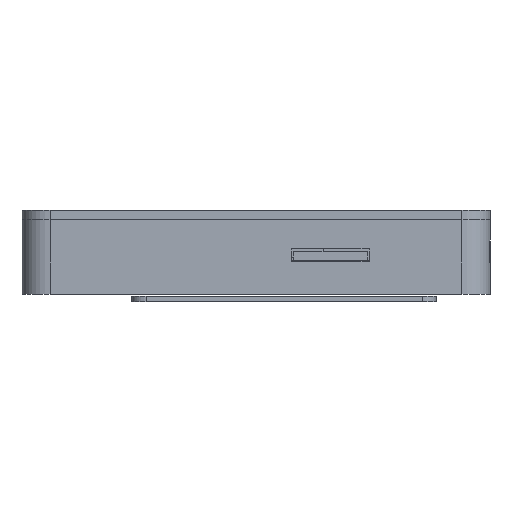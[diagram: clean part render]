
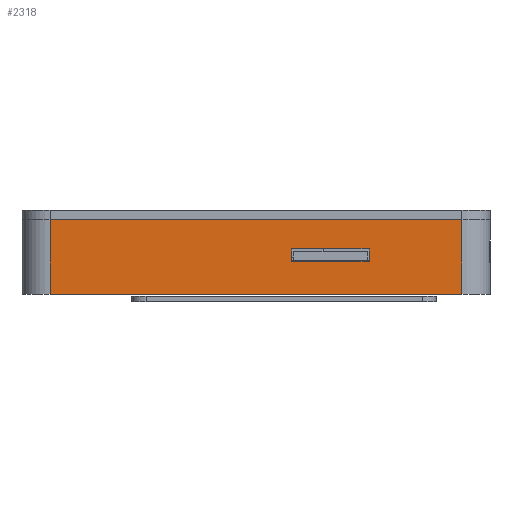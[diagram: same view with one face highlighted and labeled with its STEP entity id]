
A CAD part, left-side view. The second image highlights one B-rep face of the part: STEP entity #2318.
In plain terms, the highlighted planar face has unit normal (-1, 0, 0).
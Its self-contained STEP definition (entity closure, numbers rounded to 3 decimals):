
#1672 = VERTEX_POINT('',#1673);
#1673 = CARTESIAN_POINT('',(-23.,-44.,16.));
#1683 = PLANE('',#1684);
#1684 = AXIS2_PLACEMENT_3D('',#1685,#1686,#1687);
#1685 = CARTESIAN_POINT('',(-17.,-50.,16.));
#1686 = DIRECTION('',(0.,0.,1.));
#1687 = DIRECTION('',(1.,0.,-0.));
#1695 = CYLINDRICAL_SURFACE('',#1696,6.);
#1696 = AXIS2_PLACEMENT_3D('',#1697,#1698,#1699);
#1697 = CARTESIAN_POINT('',(-17.,-44.,0.));
#1698 = DIRECTION('',(0.,0.,1.));
#1699 = DIRECTION('',(1.,0.,-0.));
#1850 = VERTEX_POINT('',#1851);
#1851 = CARTESIAN_POINT('',(-23.,44.,16.));
#1866 = CYLINDRICAL_SURFACE('',#1867,6.);
#1867 = AXIS2_PLACEMENT_3D('',#1868,#1869,#1870);
#1868 = CARTESIAN_POINT('',(-17.,44.,0.));
#1869 = DIRECTION('',(0.,0.,1.));
#1870 = DIRECTION('',(1.,0.,-0.));
#1878 = EDGE_CURVE('',#1672,#1850,#1879,.T.);
#1879 = SURFACE_CURVE('',#1880,(#1884,#1891),.PCURVE_S1.);
#1880 = LINE('',#1881,#1882);
#1881 = CARTESIAN_POINT('',(-23.,-44.,16.));
#1882 = VECTOR('',#1883,1.);
#1883 = DIRECTION('',(-0.,1.,0.));
#1884 = PCURVE('',#1683,#1885);
#1885 = DEFINITIONAL_REPRESENTATION('',(#1886),#1890);
#1886 = LINE('',#1887,#1888);
#1887 = CARTESIAN_POINT('',(-6.,6.));
#1888 = VECTOR('',#1889,1.);
#1889 = DIRECTION('',(0.,1.));
#1890 = ( GEOMETRIC_REPRESENTATION_CONTEXT(2) 
PARAMETRIC_REPRESENTATION_CONTEXT() REPRESENTATION_CONTEXT('2D SPACE',''
  ) );
#1891 = PCURVE('',#1892,#1897);
#1892 = PLANE('',#1893);
#1893 = AXIS2_PLACEMENT_3D('',#1894,#1895,#1896);
#1894 = CARTESIAN_POINT('',(-23.,-44.,0.));
#1895 = DIRECTION('',(1.,0.,-0.));
#1896 = DIRECTION('',(0.,0.,1.));
#1897 = DEFINITIONAL_REPRESENTATION('',(#1898),#1902);
#1898 = LINE('',#1899,#1900);
#1899 = CARTESIAN_POINT('',(16.,0.));
#1900 = VECTOR('',#1901,1.);
#1901 = DIRECTION('',(0.,-1.));
#1902 = ( GEOMETRIC_REPRESENTATION_CONTEXT(2) 
PARAMETRIC_REPRESENTATION_CONTEXT() REPRESENTATION_CONTEXT('2D SPACE',''
  ) );
#2138 = EDGE_CURVE('',#2139,#1672,#2141,.T.);
#2139 = VERTEX_POINT('',#2140);
#2140 = CARTESIAN_POINT('',(-23.,-44.,0.));
#2141 = SURFACE_CURVE('',#2142,(#2146,#2153),.PCURVE_S1.);
#2142 = LINE('',#2143,#2144);
#2143 = CARTESIAN_POINT('',(-23.,-44.,0.));
#2144 = VECTOR('',#2145,1.);
#2145 = DIRECTION('',(0.,0.,1.));
#2146 = PCURVE('',#1695,#2147);
#2147 = DEFINITIONAL_REPRESENTATION('',(#2148),#2152);
#2148 = LINE('',#2149,#2150);
#2149 = CARTESIAN_POINT('',(3.142,0.));
#2150 = VECTOR('',#2151,1.);
#2151 = DIRECTION('',(0.,1.));
#2152 = ( GEOMETRIC_REPRESENTATION_CONTEXT(2) 
PARAMETRIC_REPRESENTATION_CONTEXT() REPRESENTATION_CONTEXT('2D SPACE',''
  ) );
#2153 = PCURVE('',#1892,#2154);
#2154 = DEFINITIONAL_REPRESENTATION('',(#2155),#2159);
#2155 = LINE('',#2156,#2157);
#2156 = CARTESIAN_POINT('',(0.,0.));
#2157 = VECTOR('',#2158,1.);
#2158 = DIRECTION('',(1.,0.));
#2159 = ( GEOMETRIC_REPRESENTATION_CONTEXT(2) 
PARAMETRIC_REPRESENTATION_CONTEXT() REPRESENTATION_CONTEXT('2D SPACE',''
  ) );
#2178 = PLANE('',#2179);
#2179 = AXIS2_PLACEMENT_3D('',#2180,#2181,#2182);
#2180 = CARTESIAN_POINT('',(-17.,-44.,0.));
#2181 = DIRECTION('',(0.,0.,1.));
#2182 = DIRECTION('',(1.,0.,-0.));
#2318 = ADVANCED_FACE('',(#2319,#2367),#1892,.F.);
#2319 = FACE_BOUND('',#2320,.F.);
#2320 = EDGE_LOOP('',(#2321,#2322,#2345,#2366));
#2321 = ORIENTED_EDGE('',*,*,#2138,.F.);
#2322 = ORIENTED_EDGE('',*,*,#2323,.T.);
#2323 = EDGE_CURVE('',#2139,#2324,#2326,.T.);
#2324 = VERTEX_POINT('',#2325);
#2325 = CARTESIAN_POINT('',(-23.,44.,0.));
#2326 = SURFACE_CURVE('',#2327,(#2331,#2338),.PCURVE_S1.);
#2327 = LINE('',#2328,#2329);
#2328 = CARTESIAN_POINT('',(-23.,-44.,0.));
#2329 = VECTOR('',#2330,1.);
#2330 = DIRECTION('',(-0.,1.,0.));
#2331 = PCURVE('',#1892,#2332);
#2332 = DEFINITIONAL_REPRESENTATION('',(#2333),#2337);
#2333 = LINE('',#2334,#2335);
#2334 = CARTESIAN_POINT('',(0.,0.));
#2335 = VECTOR('',#2336,1.);
#2336 = DIRECTION('',(0.,-1.));
#2337 = ( GEOMETRIC_REPRESENTATION_CONTEXT(2) 
PARAMETRIC_REPRESENTATION_CONTEXT() REPRESENTATION_CONTEXT('2D SPACE',''
  ) );
#2338 = PCURVE('',#2178,#2339);
#2339 = DEFINITIONAL_REPRESENTATION('',(#2340),#2344);
#2340 = LINE('',#2341,#2342);
#2341 = CARTESIAN_POINT('',(-6.,0.));
#2342 = VECTOR('',#2343,1.);
#2343 = DIRECTION('',(0.,1.));
#2344 = ( GEOMETRIC_REPRESENTATION_CONTEXT(2) 
PARAMETRIC_REPRESENTATION_CONTEXT() REPRESENTATION_CONTEXT('2D SPACE',''
  ) );
#2345 = ORIENTED_EDGE('',*,*,#2346,.T.);
#2346 = EDGE_CURVE('',#2324,#1850,#2347,.T.);
#2347 = SURFACE_CURVE('',#2348,(#2352,#2359),.PCURVE_S1.);
#2348 = LINE('',#2349,#2350);
#2349 = CARTESIAN_POINT('',(-23.,44.,0.));
#2350 = VECTOR('',#2351,1.);
#2351 = DIRECTION('',(0.,0.,1.));
#2352 = PCURVE('',#1892,#2353);
#2353 = DEFINITIONAL_REPRESENTATION('',(#2354),#2358);
#2354 = LINE('',#2355,#2356);
#2355 = CARTESIAN_POINT('',(0.,-88.));
#2356 = VECTOR('',#2357,1.);
#2357 = DIRECTION('',(1.,0.));
#2358 = ( GEOMETRIC_REPRESENTATION_CONTEXT(2) 
PARAMETRIC_REPRESENTATION_CONTEXT() REPRESENTATION_CONTEXT('2D SPACE',''
  ) );
#2359 = PCURVE('',#1866,#2360);
#2360 = DEFINITIONAL_REPRESENTATION('',(#2361),#2365);
#2361 = LINE('',#2362,#2363);
#2362 = CARTESIAN_POINT('',(3.142,0.));
#2363 = VECTOR('',#2364,1.);
#2364 = DIRECTION('',(0.,1.));
#2365 = ( GEOMETRIC_REPRESENTATION_CONTEXT(2) 
PARAMETRIC_REPRESENTATION_CONTEXT() REPRESENTATION_CONTEXT('2D SPACE',''
  ) );
#2366 = ORIENTED_EDGE('',*,*,#1878,.F.);
#2367 = FACE_BOUND('',#2368,.F.);
#2368 = EDGE_LOOP('',(#2369,#2399,#2427,#2455));
#2369 = ORIENTED_EDGE('',*,*,#2370,.T.);
#2370 = EDGE_CURVE('',#2371,#2373,#2375,.T.);
#2371 = VERTEX_POINT('',#2372);
#2372 = CARTESIAN_POINT('',(-23.,-7.65,7.1));
#2373 = VERTEX_POINT('',#2374);
#2374 = CARTESIAN_POINT('',(-23.,-24.15,7.1));
#2375 = SURFACE_CURVE('',#2376,(#2380,#2387),.PCURVE_S1.);
#2376 = LINE('',#2377,#2378);
#2377 = CARTESIAN_POINT('',(-23.,-34.075,7.1));
#2378 = VECTOR('',#2379,1.);
#2379 = DIRECTION('',(0.,-1.,0.));
#2380 = PCURVE('',#1892,#2381);
#2381 = DEFINITIONAL_REPRESENTATION('',(#2382),#2386);
#2382 = LINE('',#2383,#2384);
#2383 = CARTESIAN_POINT('',(7.1,-9.925));
#2384 = VECTOR('',#2385,1.);
#2385 = DIRECTION('',(0.,1.));
#2386 = ( GEOMETRIC_REPRESENTATION_CONTEXT(2) 
PARAMETRIC_REPRESENTATION_CONTEXT() REPRESENTATION_CONTEXT('2D SPACE',''
  ) );
#2387 = PCURVE('',#2388,#2393);
#2388 = PLANE('',#2389);
#2389 = AXIS2_PLACEMENT_3D('',#2390,#2391,#2392);
#2390 = CARTESIAN_POINT('',(-25.,-24.15,7.1));
#2391 = DIRECTION('',(0.,0.,1.));
#2392 = DIRECTION('',(1.,0.,-0.));
#2393 = DEFINITIONAL_REPRESENTATION('',(#2394),#2398);
#2394 = LINE('',#2395,#2396);
#2395 = CARTESIAN_POINT('',(2.,-9.925));
#2396 = VECTOR('',#2397,1.);
#2397 = DIRECTION('',(0.,-1.));
#2398 = ( GEOMETRIC_REPRESENTATION_CONTEXT(2) 
PARAMETRIC_REPRESENTATION_CONTEXT() REPRESENTATION_CONTEXT('2D SPACE',''
  ) );
#2399 = ORIENTED_EDGE('',*,*,#2400,.T.);
#2400 = EDGE_CURVE('',#2373,#2401,#2403,.T.);
#2401 = VERTEX_POINT('',#2402);
#2402 = CARTESIAN_POINT('',(-23.,-24.15,9.7));
#2403 = SURFACE_CURVE('',#2404,(#2408,#2415),.PCURVE_S1.);
#2404 = LINE('',#2405,#2406);
#2405 = CARTESIAN_POINT('',(-23.,-24.15,3.55));
#2406 = VECTOR('',#2407,1.);
#2407 = DIRECTION('',(0.,0.,1.));
#2408 = PCURVE('',#1892,#2409);
#2409 = DEFINITIONAL_REPRESENTATION('',(#2410),#2414);
#2410 = LINE('',#2411,#2412);
#2411 = CARTESIAN_POINT('',(3.55,-19.85));
#2412 = VECTOR('',#2413,1.);
#2413 = DIRECTION('',(1.,0.));
#2414 = ( GEOMETRIC_REPRESENTATION_CONTEXT(2) 
PARAMETRIC_REPRESENTATION_CONTEXT() REPRESENTATION_CONTEXT('2D SPACE',''
  ) );
#2415 = PCURVE('',#2416,#2421);
#2416 = PLANE('',#2417);
#2417 = AXIS2_PLACEMENT_3D('',#2418,#2419,#2420);
#2418 = CARTESIAN_POINT('',(-25.,-24.15,7.1));
#2419 = DIRECTION('',(-0.,1.,0.));
#2420 = DIRECTION('',(0.,0.,1.));
#2421 = DEFINITIONAL_REPRESENTATION('',(#2422),#2426);
#2422 = LINE('',#2423,#2424);
#2423 = CARTESIAN_POINT('',(-3.55,2.));
#2424 = VECTOR('',#2425,1.);
#2425 = DIRECTION('',(1.,0.));
#2426 = ( GEOMETRIC_REPRESENTATION_CONTEXT(2) 
PARAMETRIC_REPRESENTATION_CONTEXT() REPRESENTATION_CONTEXT('2D SPACE',''
  ) );
#2427 = ORIENTED_EDGE('',*,*,#2428,.F.);
#2428 = EDGE_CURVE('',#2429,#2401,#2431,.T.);
#2429 = VERTEX_POINT('',#2430);
#2430 = CARTESIAN_POINT('',(-23.,-7.65,9.7));
#2431 = SURFACE_CURVE('',#2432,(#2436,#2443),.PCURVE_S1.);
#2432 = LINE('',#2433,#2434);
#2433 = CARTESIAN_POINT('',(-23.,-34.075,9.7));
#2434 = VECTOR('',#2435,1.);
#2435 = DIRECTION('',(0.,-1.,0.));
#2436 = PCURVE('',#1892,#2437);
#2437 = DEFINITIONAL_REPRESENTATION('',(#2438),#2442);
#2438 = LINE('',#2439,#2440);
#2439 = CARTESIAN_POINT('',(9.7,-9.925));
#2440 = VECTOR('',#2441,1.);
#2441 = DIRECTION('',(0.,1.));
#2442 = ( GEOMETRIC_REPRESENTATION_CONTEXT(2) 
PARAMETRIC_REPRESENTATION_CONTEXT() REPRESENTATION_CONTEXT('2D SPACE',''
  ) );
#2443 = PCURVE('',#2444,#2449);
#2444 = PLANE('',#2445);
#2445 = AXIS2_PLACEMENT_3D('',#2446,#2447,#2448);
#2446 = CARTESIAN_POINT('',(-25.,-24.15,9.7));
#2447 = DIRECTION('',(0.,0.,1.));
#2448 = DIRECTION('',(1.,0.,-0.));
#2449 = DEFINITIONAL_REPRESENTATION('',(#2450),#2454);
#2450 = LINE('',#2451,#2452);
#2451 = CARTESIAN_POINT('',(2.,-9.925));
#2452 = VECTOR('',#2453,1.);
#2453 = DIRECTION('',(0.,-1.));
#2454 = ( GEOMETRIC_REPRESENTATION_CONTEXT(2) 
PARAMETRIC_REPRESENTATION_CONTEXT() REPRESENTATION_CONTEXT('2D SPACE',''
  ) );
#2455 = ORIENTED_EDGE('',*,*,#2456,.F.);
#2456 = EDGE_CURVE('',#2371,#2429,#2457,.T.);
#2457 = SURFACE_CURVE('',#2458,(#2462,#2469),.PCURVE_S1.);
#2458 = LINE('',#2459,#2460);
#2459 = CARTESIAN_POINT('',(-23.,-7.65,3.55));
#2460 = VECTOR('',#2461,1.);
#2461 = DIRECTION('',(0.,0.,1.));
#2462 = PCURVE('',#1892,#2463);
#2463 = DEFINITIONAL_REPRESENTATION('',(#2464),#2468);
#2464 = LINE('',#2465,#2466);
#2465 = CARTESIAN_POINT('',(3.55,-36.35));
#2466 = VECTOR('',#2467,1.);
#2467 = DIRECTION('',(1.,0.));
#2468 = ( GEOMETRIC_REPRESENTATION_CONTEXT(2) 
PARAMETRIC_REPRESENTATION_CONTEXT() REPRESENTATION_CONTEXT('2D SPACE',''
  ) );
#2469 = PCURVE('',#2470,#2475);
#2470 = PLANE('',#2471);
#2471 = AXIS2_PLACEMENT_3D('',#2472,#2473,#2474);
#2472 = CARTESIAN_POINT('',(-25.,-7.65,7.1));
#2473 = DIRECTION('',(-0.,1.,0.));
#2474 = DIRECTION('',(0.,0.,1.));
#2475 = DEFINITIONAL_REPRESENTATION('',(#2476),#2480);
#2476 = LINE('',#2477,#2478);
#2477 = CARTESIAN_POINT('',(-3.55,2.));
#2478 = VECTOR('',#2479,1.);
#2479 = DIRECTION('',(1.,0.));
#2480 = ( GEOMETRIC_REPRESENTATION_CONTEXT(2) 
PARAMETRIC_REPRESENTATION_CONTEXT() REPRESENTATION_CONTEXT('2D SPACE',''
  ) );
